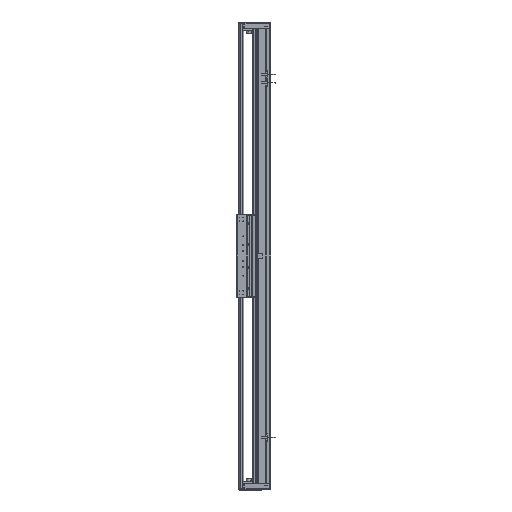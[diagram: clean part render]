
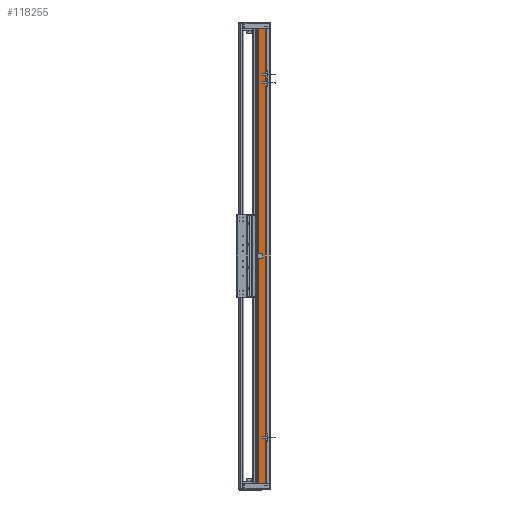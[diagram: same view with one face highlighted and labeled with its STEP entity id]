
A CAD part, left-side view. The second image highlights one B-rep face of the part: STEP entity #118255.
In plain terms, the highlighted planar face has unit normal (-1, 0, 0).
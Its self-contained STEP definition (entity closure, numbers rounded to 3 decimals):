
#2522 = CARTESIAN_POINT ( 'NONE',  ( -97.5, 36.95, 690. ) ) ;
#8480 = EDGE_LOOP ( 'NONE', ( #137512, #56084, #48813, #11294 ) ) ;
#11294 = ORIENTED_EDGE ( 'NONE', *, *, #148740, .T. ) ;
#12090 = CARTESIAN_POINT ( 'NONE',  ( -97.5, 36.95, -690. ) ) ;
#12403 = LINE ( 'NONE', #2522, #72019 ) ;
#13014 = VERTEX_POINT ( 'NONE', #87141 ) ;
#13251 = FACE_OUTER_BOUND ( 'NONE', #8480, .T. ) ;
#19898 = LINE ( 'NONE', #126868, #87065 ) ;
#20602 = VECTOR ( 'NONE', #71017, 1000. ) ;
#22728 = DIRECTION ( 'NONE',  ( 0., -1., 0. ) ) ;
#23874 = PLANE ( 'NONE',  #25083 ) ;
#25083 = AXIS2_PLACEMENT_3D ( 'NONE', #82268, #83017, #117957 ) ;
#30197 = VERTEX_POINT ( 'NONE', #33883 ) ;
#33883 = CARTESIAN_POINT ( 'NONE',  ( -97.5, 36.95, 690. ) ) ;
#48058 = EDGE_CURVE ( 'NONE', #30197, #69068, #12403, .T. ) ;
#48813 = ORIENTED_EDGE ( 'NONE', *, *, #48058, .F. ) ;
#52179 = EDGE_CURVE ( 'NONE', #69068, #13014, #19898, .T. ) ;
#56084 = ORIENTED_EDGE ( 'NONE', *, *, #52179, .F. ) ;
#66146 = DIRECTION ( 'NONE',  ( 0., 0., -1. ) ) ;
#69068 = VERTEX_POINT ( 'NONE', #120447 ) ;
#69513 = LINE ( 'NONE', #140095, #20602 ) ;
#71017 = DIRECTION ( 'NONE',  ( 0., 0., -1. ) ) ;
#71806 = VERTEX_POINT ( 'NONE', #117526 ) ;
#72019 = VECTOR ( 'NONE', #139139, 1000. ) ;
#72883 = EDGE_CURVE ( 'NONE', #71806, #13014, #106188, .T. ) ;
#82268 = CARTESIAN_POINT ( 'NONE',  ( -97.5, 36.95, 690. ) ) ;
#83017 = DIRECTION ( 'NONE',  ( 1., 0., 0. ) ) ;
#87065 = VECTOR ( 'NONE', #66146, 1000. ) ;
#87141 = CARTESIAN_POINT ( 'NONE',  ( -97.5, 14.45, -690. ) ) ;
#106188 = LINE ( 'NONE', #12090, #149594 ) ;
#117526 = CARTESIAN_POINT ( 'NONE',  ( -97.5, 36.95, -690. ) ) ;
#117957 = DIRECTION ( 'NONE',  ( 0., 1., 0. ) ) ;
#118255 = ADVANCED_FACE ( 'NONE', ( #13251 ), #23874, .F. ) ;
#120447 = CARTESIAN_POINT ( 'NONE',  ( -97.5, 14.45, 690. ) ) ;
#126868 = CARTESIAN_POINT ( 'NONE',  ( -97.5, 14.45, 690. ) ) ;
#137512 = ORIENTED_EDGE ( 'NONE', *, *, #72883, .T. ) ;
#139139 = DIRECTION ( 'NONE',  ( 0., -1., 0. ) ) ;
#140095 = CARTESIAN_POINT ( 'NONE',  ( -97.5, 36.95, 690. ) ) ;
#148740 = EDGE_CURVE ( 'NONE', #30197, #71806, #69513, .T. ) ;
#149594 = VECTOR ( 'NONE', #22728, 1000. ) ;
